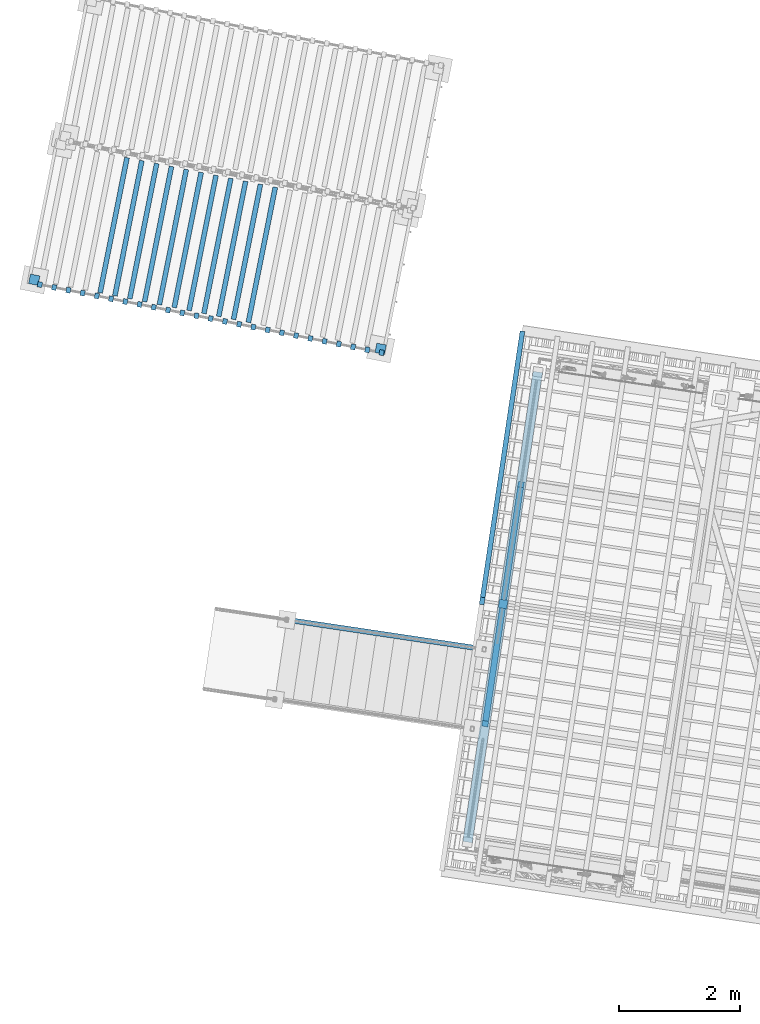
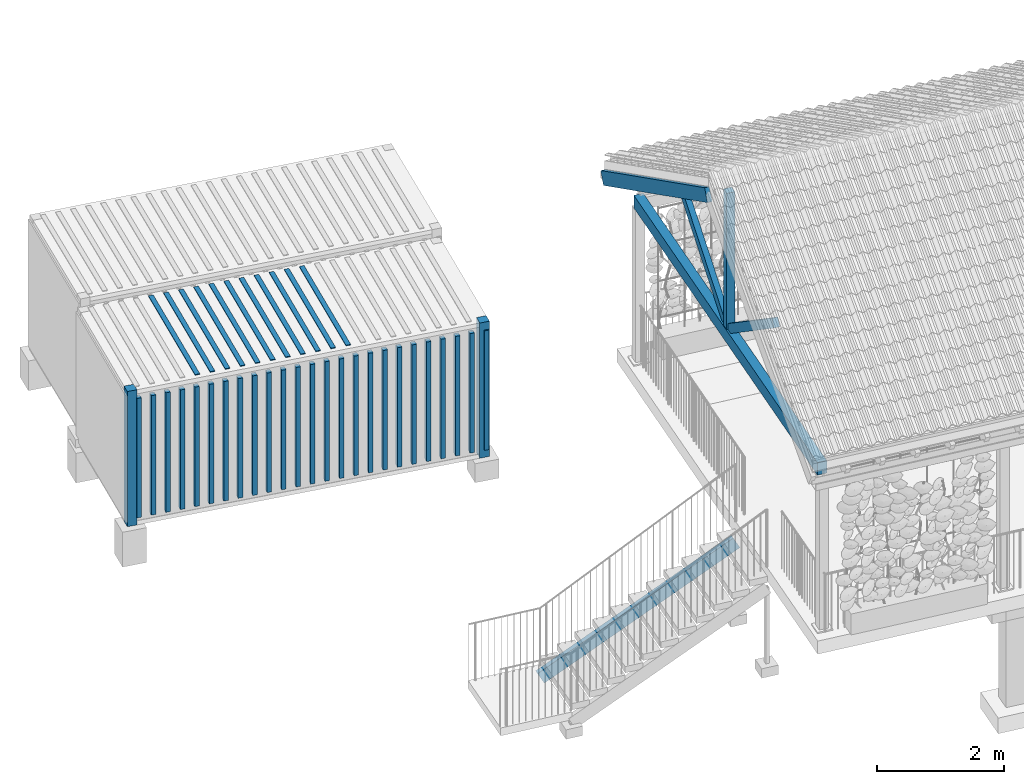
# One storey, part 23 of 131: 43 members, 1 beam, 3 elements without a shape of their own.
"""IFC4 building model written with IfcOpenShell, lengths in metres."""

from ifc_helpers import new_model, si_unit, direction, frame, origin_with_axes, place, context, subcontext, project, spatial, polyline, rectangle, outline, extrude, material, material_profile, profile_set, profile_usage, type_object, element, aggregate, save


model = new_model("IFC4")

# Units and contexts
model_context = context("Model", 3, precision=1e-05, world=origin_with_axes(), true_north=direction((0.0, 1.0)))
body_context = subcontext(model_context, "Body", "Model", "MODEL_VIEW")
ifc_project = project(units=[si_unit("AREAUNIT", "SQUARE_METRE"), si_unit("VOLUMEUNIT", "CUBIC_METRE"), si_unit("LENGTHUNIT", "METRE")], contexts=[model_context])

# Site, building, storey
site_placement = place(None, origin_with_axes())
site = spatial("IfcSite", under=ifc_project, at=site_placement, Name="Lares · Rua das Mercês · artigo 4771")
building_placement = place(site_placement, frame((15.0, 9.7, 14.65), z_axis=(0.0, 0.0, 1.0), x_axis=(0.989015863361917, -0.147809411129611, 0.0)))
building = spatial("IfcBuilding", under=site, at=building_placement, Name="Casa Sobreposta")
storey_placement = place(building_placement, origin_with_axes())
storey = spatial("IfcBuildingStorey", under=building, at=storey_placement, Name="00 · Habitação e estacionamento", Elevation=14.65)

# Roof, beam, members
ifc_material_1 = material(Name="Madeira / Bauholz", Category="wood")
roof_placement = place(storey_placement, origin_with_axes())
roof = element("IfcRoof", 1, at=roof_placement, inside=storey, material=ifc_material_1, Name="Cobertura de telha · duas águas 30 graus", PredefinedType="GABLE_ROOF")
ifc_material_profile_1 = material_profile(ifc_material_1, rectangle(XDim=0.16, YDim=0.24))
ifc_profile_set_1 = profile_set([ifc_material_profile_1], Name="TIMBER0.160x0.240")
ifc_profile_usage_1 = profile_usage(ifc_profile_set_1)
beam_type = type_object("IfcBeamType", Name="TIMBER0.160x0.240 / timber", PredefinedType="NOTDEFINED", material=ifc_profile_set_1)
beam_placement = place(roof_placement, frame((-6.05, -1.43, 3.02), z_axis=(0.0, 1.0, 0.0), x_axis=(1.0, 0.0, 0.0)))
beam = element("IfcBeam", 2, at=beam_placement, type_object=beam_type, material=ifc_profile_usage_1, Name="Tesoura · tirante inferior", context=body_context, shape_type="SweptSolid", body=[
    extrude(rectangle(XDim=0.16, YDim=0.24), origin_with_axes(), (0.0, 0.0, 1.0), 7.86),
])
ifc_material_profile_2 = material_profile(ifc_material_1, rectangle(XDim=0.14, YDim=0.14))
ifc_profile_set_2 = profile_set([ifc_material_profile_2], Name="TIMBER0.140x0.140")
ifc_profile_usage_2 = profile_usage(ifc_profile_set_2)
member_type_1 = type_object("IfcMemberType", Name="TIMBER0.140x0.140 / timber", PredefinedType="NOTDEFINED", material=ifc_profile_set_2)
member_1_placement = place(roof_placement, frame((-6.05, 2.55, 3.02), z_axis=(0.0, 0.0, 1.0), x_axis=(1.0, 0.0, 0.0)))
member_1 = element("IfcMember", 3, at=member_1_placement, type_object=member_type_1, material=ifc_profile_usage_2, Name="Tesoura · pendural", context=body_context, shape_type="SweptSolid", body=[
    extrude(rectangle(XDim=0.14, YDim=0.14), origin_with_axes(), (0.0, 0.0, 1.0), 2.72420869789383),
])
ifc_material_profile_3 = material_profile(ifc_material_1, rectangle(XDim=0.1, YDim=0.16))
ifc_profile_set_3 = profile_set([ifc_material_profile_3], Name="TIMBER0.100x0.160")
ifc_profile_usage_3 = profile_usage(ifc_profile_set_3)
member_type_2 = type_object("IfcMemberType", Name="TIMBER0.100x0.160 / timber", PredefinedType="NOTDEFINED", material=ifc_profile_set_3)
member_2_placement = place(roof_placement, frame((-6.05, 2.55, 3.1), z_axis=(0.0, -0.816439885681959, 0.577430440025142), x_axis=(-1.0, 0.0, 0.0)))
member_2 = element("IfcMember", 4, at=member_2_placement, type_object=member_type_2, material=ifc_profile_usage_3, Name="Tesoura · escora", context=body_context, shape_type="SweptSolid", body=[
    extrude(rectangle(XDim=0.1, YDim=0.16), origin_with_axes(), (0.0, 0.0, 1.0), 2.44965984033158),
])
ifc_profile_usage_4 = profile_usage(ifc_profile_set_3)
member_3_placement = place(roof_placement, frame((-6.05, 2.55, 3.1), z_axis=(0.0, 0.816439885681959, 0.577430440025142), x_axis=(1.0, 0.0, 0.0)))
member_3 = element("IfcMember", 5, at=member_3_placement, type_object=member_type_2, material=ifc_profile_usage_4, Name="Tesoura · escora", context=body_context, shape_type="SweptSolid", body=[
    extrude(rectangle(XDim=0.1, YDim=0.16), origin_with_axes(), (0.0, 0.0, 1.0), 2.44965984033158),
])
ifc_material_profile_4 = material_profile(ifc_material_1, rectangle(XDim=0.08, YDim=0.24))
ifc_profile_set_4 = profile_set([ifc_material_profile_4], Name="TIMBER0.080x0.240")
ifc_profile_usage_5 = profile_usage(ifc_profile_set_4)
member_type_3 = type_object("IfcMemberType", Name="TIMBER0.080x0.240 / timber", PredefinedType="NOTDEFINED", material=ifc_profile_set_4)
member_4_placement = place(roof_placement, frame((-6.4, 2.55, 5.75020869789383), z_axis=(0.0, 0.866025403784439, -0.5), x_axis=(1.0, 0.0, 0.0)))
member_4 = element("IfcMember", 6, at=member_4_placement, type_object=member_type_3, material=ifc_profile_usage_5, Name="Cobertura · caibro", context=body_context, shape_type="SweptSolid", body=[
    extrude(rectangle(XDim=0.08, YDim=0.24), origin_with_axes(), (0.0, 0.0, 1.0), 5.13841739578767),
])
aggregate(roof, [beam, member_1, member_2, member_3, member_4])

# Stair, member
stair_placement = place(storey_placement, origin_with_axes())
stair = element("IfcStair", 7, at=stair_placement, inside=storey, Name="Jardim · escada pela fachada poente", PredefinedType="STRAIGHT_RUN_STAIR")
ifc_material_2 = material(Name="Aço pintado / Stahl lackiert", Category="steel")
ifc_material_profile_5 = material_profile(ifc_material_2, outline(polyline([(-0.0425, -0.12), (0.0425, -0.12), (0.0425, -0.1102), (-0.0325, -0.1102), (-0.0325, 0.1102), (0.0425, 0.1102), (0.0425, 0.12), (-0.0425, 0.12), (-0.0425, -0.12)])))
ifc_profile_set_5 = profile_set([ifc_material_profile_5], Name="C240")
ifc_profile_usage_6 = profile_usage(ifc_profile_set_5)
member_type_4 = type_object("IfcMemberType", Name="C240 / steel", PredefinedType="NOTDEFINED", material=ifc_profile_set_5)
member_5_placement = place(stair_placement, frame((-6.25, 1.765, -0.419166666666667), z_axis=(-0.883369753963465, 0.0, -0.468676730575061), x_axis=(0.0, 1.0, 0.0)))
member_5 = element("IfcMember", 8, at=member_5_placement, type_object=member_type_4, material=ifc_profile_usage_6, Name="Jardim · longarina poente", context=body_context, shape_type="SweptSolid", body=[
    extrude(outline(polyline([(-0.0425, -0.12), (0.0425, -0.12), (0.0425, -0.1102), (-0.0325, -0.1102), (-0.0325, 0.1102), (0.0425, 0.1102), (0.0425, 0.12), (-0.0425, 0.12), (-0.0425, -0.12)])), origin_with_axes(), (0.0, 0.0, 1.0), 3.73569503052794),
])
aggregate(stair, [member_5])

# Assembly, members
assembly_placement = place(storey_placement, frame((-14.5932944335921, 6.63122214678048, 0.0), z_axis=(0.0, 0.0, 1.0), x_axis=(0.998832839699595, -0.0483007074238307, 0.0)))
assembly = element("IfcElementAssembly", 9, at=assembly_placement, inside=storey, Name="Contentor existente 2 · 6 m", ObjectType="EXISTING_SHIPPING_CONTAINER", PredefinedType="USERDEFINED")
ifc_material_3 = material(Name="Contentor · pintura 2", Category="steel")
member_6_placement = place(assembly_placement, frame((0.0, 0.0, -1.16875169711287), z_axis=(0.0, 0.0, 1.0), x_axis=(1.0, 0.0, 0.0)))
member_6 = element("IfcMember", 10, at=member_6_placement, material=ifc_material_3, Name="Contentor · canto", context=body_context, shape_type="SweptSolid", body=[
    extrude(outline(polyline([(0.16, 0.0), (0.16, 0.16), (0.0, 0.16), (0.0, 0.0), (0.16, 0.0)])), origin_with_axes(), (0.0, 0.0, 1.0), 2.59),
])
member_7_placement = place(assembly_placement, frame((0.0, 0.0, -1.16875169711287), z_axis=(0.0, 0.0, 1.0), x_axis=(1.0, 0.0, 0.0)))
member_7 = element("IfcMember", 11, at=member_7_placement, material=ifc_material_3, Name="Contentor · canto", context=body_context, shape_type="SweptSolid", body=[
    extrude(outline(polyline([(6.0, 0.0), (6.0, 0.16), (5.84, 0.16), (5.84, 0.0), (6.0, 0.0)])), origin_with_axes(), (0.0, 0.0, 1.0), 2.59),
])
member_8_placement = place(assembly_placement, frame((0.0, 0.0, -1.01875169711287), z_axis=(0.0, 0.0, 1.0), x_axis=(1.0, 0.0, 0.0)))
member_8 = element("IfcMember", 12, at=member_8_placement, material=ifc_material_3, Name="Contentor · nervura lateral", context=body_context, shape_type="SweptSolid", body=[
    extrude(outline(polyline([(0.225, -0.025), (0.225, 0.065), (0.15, 0.065), (0.15, -0.025), (0.225, -0.025)])), origin_with_axes(), (0.0, 0.0, 1.0), 2.29),
])
member_9_placement = place(assembly_placement, frame((0.0, 0.0, -1.01875169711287), z_axis=(0.0, 0.0, 1.0), x_axis=(1.0, 0.0, 0.0)))
member_9 = element("IfcMember", 13, at=member_9_placement, material=ifc_material_3, Name="Contentor · nervura lateral", context=body_context, shape_type="SweptSolid", body=[
    extrude(outline(polyline([(0.465, -0.025), (0.465, 0.065), (0.39, 0.065), (0.39, -0.025), (0.465, -0.025)])), origin_with_axes(), (0.0, 0.0, 1.0), 2.29),
])
member_10_placement = place(assembly_placement, frame((0.0, 0.0, -1.01875169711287), z_axis=(0.0, 0.0, 1.0), x_axis=(1.0, 0.0, 0.0)))
member_10 = element("IfcMember", 14, at=member_10_placement, material=ifc_material_3, Name="Contentor · nervura lateral", context=body_context, shape_type="SweptSolid", body=[
    extrude(outline(polyline([(0.705, -0.025), (0.705, 0.065), (0.63, 0.065), (0.63, -0.025), (0.705, -0.025)])), origin_with_axes(), (0.0, 0.0, 1.0), 2.29),
])
member_11_placement = place(assembly_placement, frame((0.0, 0.0, -1.01875169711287), z_axis=(0.0, 0.0, 1.0), x_axis=(1.0, 0.0, 0.0)))
member_11 = element("IfcMember", 15, at=member_11_placement, material=ifc_material_3, Name="Contentor · nervura lateral", context=body_context, shape_type="SweptSolid", body=[
    extrude(outline(polyline([(0.945, -0.025), (0.945, 0.065), (0.87, 0.065), (0.87, -0.025), (0.945, -0.025)])), origin_with_axes(), (0.0, 0.0, 1.0), 2.29),
])
member_12_placement = place(assembly_placement, frame((0.0, 0.0, -1.01875169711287), z_axis=(0.0, 0.0, 1.0), x_axis=(1.0, 0.0, 0.0)))
member_12 = element("IfcMember", 16, at=member_12_placement, material=ifc_material_3, Name="Contentor · nervura lateral", context=body_context, shape_type="SweptSolid", body=[
    extrude(outline(polyline([(1.185, -0.025), (1.185, 0.065), (1.11, 0.065), (1.11, -0.025), (1.185, -0.025)])), origin_with_axes(), (0.0, 0.0, 1.0), 2.29),
])
member_13_placement = place(assembly_placement, frame((0.0, 0.0, -1.01875169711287), z_axis=(0.0, 0.0, 1.0), x_axis=(1.0, 0.0, 0.0)))
member_13 = element("IfcMember", 17, at=member_13_placement, material=ifc_material_3, Name="Contentor · nervura lateral", context=body_context, shape_type="SweptSolid", body=[
    extrude(outline(polyline([(1.425, -0.025), (1.425, 0.065), (1.35, 0.065), (1.35, -0.025), (1.425, -0.025)])), origin_with_axes(), (0.0, 0.0, 1.0), 2.29),
])
member_14_placement = place(assembly_placement, frame((0.0, 0.0, -1.01875169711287), z_axis=(0.0, 0.0, 1.0), x_axis=(1.0, 0.0, 0.0)))
member_14 = element("IfcMember", 18, at=member_14_placement, material=ifc_material_3, Name="Contentor · nervura lateral", context=body_context, shape_type="SweptSolid", body=[
    extrude(outline(polyline([(1.665, -0.025), (1.665, 0.065), (1.59, 0.065), (1.59, -0.025), (1.665, -0.025)])), origin_with_axes(), (0.0, 0.0, 1.0), 2.29),
])
member_15_placement = place(assembly_placement, frame((0.0, 0.0, -1.01875169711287), z_axis=(0.0, 0.0, 1.0), x_axis=(1.0, 0.0, 0.0)))
member_15 = element("IfcMember", 19, at=member_15_placement, material=ifc_material_3, Name="Contentor · nervura lateral", context=body_context, shape_type="SweptSolid", body=[
    extrude(outline(polyline([(1.905, -0.025), (1.905, 0.065), (1.83, 0.065), (1.83, -0.025), (1.905, -0.025)])), origin_with_axes(), (0.0, 0.0, 1.0), 2.29),
])
member_16_placement = place(assembly_placement, frame((0.0, 0.0, -1.01875169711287), z_axis=(0.0, 0.0, 1.0), x_axis=(1.0, 0.0, 0.0)))
member_16 = element("IfcMember", 20, at=member_16_placement, material=ifc_material_3, Name="Contentor · nervura lateral", context=body_context, shape_type="SweptSolid", body=[
    extrude(outline(polyline([(2.145, -0.025), (2.145, 0.065), (2.07, 0.065), (2.07, -0.025), (2.145, -0.025)])), origin_with_axes(), (0.0, 0.0, 1.0), 2.29),
])
member_17_placement = place(assembly_placement, frame((0.0, 0.0, -1.01875169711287), z_axis=(0.0, 0.0, 1.0), x_axis=(1.0, 0.0, 0.0)))
member_17 = element("IfcMember", 21, at=member_17_placement, material=ifc_material_3, Name="Contentor · nervura lateral", context=body_context, shape_type="SweptSolid", body=[
    extrude(outline(polyline([(2.385, -0.025), (2.385, 0.065), (2.31, 0.065), (2.31, -0.025), (2.385, -0.025)])), origin_with_axes(), (0.0, 0.0, 1.0), 2.29),
])
member_18_placement = place(assembly_placement, frame((0.0, 0.0, -1.01875169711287), z_axis=(0.0, 0.0, 1.0), x_axis=(1.0, 0.0, 0.0)))
member_18 = element("IfcMember", 22, at=member_18_placement, material=ifc_material_3, Name="Contentor · nervura lateral", context=body_context, shape_type="SweptSolid", body=[
    extrude(outline(polyline([(2.625, -0.025), (2.625, 0.065), (2.55, 0.065), (2.55, -0.025), (2.625, -0.025)])), origin_with_axes(), (0.0, 0.0, 1.0), 2.29),
])
member_19_placement = place(assembly_placement, frame((0.0, 0.0, -1.01875169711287), z_axis=(0.0, 0.0, 1.0), x_axis=(1.0, 0.0, 0.0)))
member_19 = element("IfcMember", 23, at=member_19_placement, material=ifc_material_3, Name="Contentor · nervura lateral", context=body_context, shape_type="SweptSolid", body=[
    extrude(outline(polyline([(2.865, -0.025), (2.865, 0.065), (2.79, 0.065), (2.79, -0.025), (2.865, -0.025)])), origin_with_axes(), (0.0, 0.0, 1.0), 2.29),
])
member_20_placement = place(assembly_placement, frame((0.0, 0.0, -1.01875169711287), z_axis=(0.0, 0.0, 1.0), x_axis=(1.0, 0.0, 0.0)))
member_20 = element("IfcMember", 24, at=member_20_placement, material=ifc_material_3, Name="Contentor · nervura lateral", context=body_context, shape_type="SweptSolid", body=[
    extrude(outline(polyline([(3.105, -0.025), (3.105, 0.065), (3.03, 0.065), (3.03, -0.025), (3.105, -0.025)])), origin_with_axes(), (0.0, 0.0, 1.0), 2.29),
])
member_21_placement = place(assembly_placement, frame((0.0, 0.0, -1.01875169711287), z_axis=(0.0, 0.0, 1.0), x_axis=(1.0, 0.0, 0.0)))
member_21 = element("IfcMember", 25, at=member_21_placement, material=ifc_material_3, Name="Contentor · nervura lateral", context=body_context, shape_type="SweptSolid", body=[
    extrude(outline(polyline([(3.345, -0.025), (3.345, 0.065), (3.27, 0.065), (3.27, -0.025), (3.345, -0.025)])), origin_with_axes(), (0.0, 0.0, 1.0), 2.29),
])
member_22_placement = place(assembly_placement, frame((0.0, 0.0, -1.01875169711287), z_axis=(0.0, 0.0, 1.0), x_axis=(1.0, 0.0, 0.0)))
member_22 = element("IfcMember", 26, at=member_22_placement, material=ifc_material_3, Name="Contentor · nervura lateral", context=body_context, shape_type="SweptSolid", body=[
    extrude(outline(polyline([(3.585, -0.025), (3.585, 0.065), (3.51, 0.065), (3.51, -0.025), (3.585, -0.025)])), origin_with_axes(), (0.0, 0.0, 1.0), 2.29),
])
member_23_placement = place(assembly_placement, frame((0.0, 0.0, -1.01875169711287), z_axis=(0.0, 0.0, 1.0), x_axis=(1.0, 0.0, 0.0)))
member_23 = element("IfcMember", 27, at=member_23_placement, material=ifc_material_3, Name="Contentor · nervura lateral", context=body_context, shape_type="SweptSolid", body=[
    extrude(outline(polyline([(3.825, -0.025), (3.825, 0.065), (3.75, 0.065), (3.75, -0.025), (3.825, -0.025)])), origin_with_axes(), (0.0, 0.0, 1.0), 2.29),
])
member_24_placement = place(assembly_placement, frame((0.0, 0.0, -1.01875169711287), z_axis=(0.0, 0.0, 1.0), x_axis=(1.0, 0.0, 0.0)))
member_24 = element("IfcMember", 28, at=member_24_placement, material=ifc_material_3, Name="Contentor · nervura lateral", context=body_context, shape_type="SweptSolid", body=[
    extrude(outline(polyline([(4.065, -0.025), (4.065, 0.065), (3.99, 0.065), (3.99, -0.025), (4.065, -0.025)])), origin_with_axes(), (0.0, 0.0, 1.0), 2.29),
])
member_25_placement = place(assembly_placement, frame((0.0, 0.0, -1.01875169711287), z_axis=(0.0, 0.0, 1.0), x_axis=(1.0, 0.0, 0.0)))
member_25 = element("IfcMember", 29, at=member_25_placement, material=ifc_material_3, Name="Contentor · nervura lateral", context=body_context, shape_type="SweptSolid", body=[
    extrude(outline(polyline([(4.305, -0.025), (4.305, 0.065), (4.23, 0.065), (4.23, -0.025), (4.305, -0.025)])), origin_with_axes(), (0.0, 0.0, 1.0), 2.29),
])
member_26_placement = place(assembly_placement, frame((0.0, 0.0, -1.01875169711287), z_axis=(0.0, 0.0, 1.0), x_axis=(1.0, 0.0, 0.0)))
member_26 = element("IfcMember", 30, at=member_26_placement, material=ifc_material_3, Name="Contentor · nervura lateral", context=body_context, shape_type="SweptSolid", body=[
    extrude(outline(polyline([(4.545, -0.025), (4.545, 0.065), (4.47, 0.065), (4.47, -0.025), (4.545, -0.025)])), origin_with_axes(), (0.0, 0.0, 1.0), 2.29),
])
member_27_placement = place(assembly_placement, frame((0.0, 0.0, -1.01875169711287), z_axis=(0.0, 0.0, 1.0), x_axis=(1.0, 0.0, 0.0)))
member_27 = element("IfcMember", 31, at=member_27_placement, material=ifc_material_3, Name="Contentor · nervura lateral", context=body_context, shape_type="SweptSolid", body=[
    extrude(outline(polyline([(4.785, -0.025), (4.785, 0.065), (4.71, 0.065), (4.71, -0.025), (4.785, -0.025)])), origin_with_axes(), (0.0, 0.0, 1.0), 2.29),
])
member_28_placement = place(assembly_placement, frame((0.0, 0.0, -1.01875169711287), z_axis=(0.0, 0.0, 1.0), x_axis=(1.0, 0.0, 0.0)))
member_28 = element("IfcMember", 32, at=member_28_placement, material=ifc_material_3, Name="Contentor · nervura lateral", context=body_context, shape_type="SweptSolid", body=[
    extrude(outline(polyline([(5.025, -0.025), (5.025, 0.065), (4.95, 0.065), (4.95, -0.025), (5.025, -0.025)])), origin_with_axes(), (0.0, 0.0, 1.0), 2.29),
])
member_29_placement = place(assembly_placement, frame((0.0, 0.0, -1.01875169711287), z_axis=(0.0, 0.0, 1.0), x_axis=(1.0, 0.0, 0.0)))
member_29 = element("IfcMember", 33, at=member_29_placement, material=ifc_material_3, Name="Contentor · nervura lateral", context=body_context, shape_type="SweptSolid", body=[
    extrude(outline(polyline([(5.265, -0.025), (5.265, 0.065), (5.19, 0.065), (5.19, -0.025), (5.265, -0.025)])), origin_with_axes(), (0.0, 0.0, 1.0), 2.29),
])
member_30_placement = place(assembly_placement, frame((0.0, 0.0, -1.01875169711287), z_axis=(0.0, 0.0, 1.0), x_axis=(1.0, 0.0, 0.0)))
member_30 = element("IfcMember", 34, at=member_30_placement, material=ifc_material_3, Name="Contentor · nervura lateral", context=body_context, shape_type="SweptSolid", body=[
    extrude(outline(polyline([(5.505, -0.025), (5.505, 0.065), (5.43, 0.065), (5.43, -0.025), (5.505, -0.025)])), origin_with_axes(), (0.0, 0.0, 1.0), 2.29),
])
member_31_placement = place(assembly_placement, frame((0.0, 0.0, -1.01875169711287), z_axis=(0.0, 0.0, 1.0), x_axis=(1.0, 0.0, 0.0)))
member_31 = element("IfcMember", 35, at=member_31_placement, material=ifc_material_3, Name="Contentor · nervura lateral", context=body_context, shape_type="SweptSolid", body=[
    extrude(outline(polyline([(5.745, -0.025), (5.745, 0.065), (5.67, 0.065), (5.67, -0.025), (5.745, -0.025)])), origin_with_axes(), (0.0, 0.0, 1.0), 2.29),
])
member_32_placement = place(assembly_placement, frame((0.0, 0.0, -1.01875169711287), z_axis=(0.0, 0.0, 1.0), x_axis=(1.0, 0.0, 0.0)))
member_32 = element("IfcMember", 36, at=member_32_placement, material=ifc_material_3, Name="Contentor · nervura lateral", context=body_context, shape_type="SweptSolid", body=[
    extrude(outline(polyline([(5.985, -0.025), (5.985, 0.065), (5.91, 0.065), (5.91, -0.025), (5.985, -0.025)])), origin_with_axes(), (0.0, 0.0, 1.0), 2.29),
])
member_33_placement = place(assembly_placement, frame((0.0, 0.0, 1.41624830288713), z_axis=(0.0, 0.0, 1.0), x_axis=(1.0, 0.0, 0.0)))
member_33 = element("IfcMember", 37, at=member_33_placement, material=ifc_material_3, Name="Contentor · nervura cobertura", context=body_context, shape_type="SweptSolid", body=[
    extrude(outline(polyline([(1.23, 0.08), (1.23, 2.36), (1.15, 2.36), (1.15, 0.08), (1.23, 0.08)])), origin_with_axes(), (0.0, 0.0, 1.0), 0.018),
])
member_34_placement = place(assembly_placement, frame((0.0, 0.0, 1.41624830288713), z_axis=(0.0, 0.0, 1.0), x_axis=(1.0, 0.0, 0.0)))
member_34 = element("IfcMember", 38, at=member_34_placement, material=ifc_material_3, Name="Contentor · nervura cobertura", context=body_context, shape_type="SweptSolid", body=[
    extrude(outline(polyline([(1.48, 0.08), (1.48, 2.36), (1.4, 2.36), (1.4, 0.08), (1.48, 0.08)])), origin_with_axes(), (0.0, 0.0, 1.0), 0.018),
])
member_35_placement = place(assembly_placement, frame((0.0, 0.0, 1.41624830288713), z_axis=(0.0, 0.0, 1.0), x_axis=(1.0, 0.0, 0.0)))
member_35 = element("IfcMember", 39, at=member_35_placement, material=ifc_material_3, Name="Contentor · nervura cobertura", context=body_context, shape_type="SweptSolid", body=[
    extrude(outline(polyline([(1.73, 0.08), (1.73, 2.36), (1.65, 2.36), (1.65, 0.08), (1.73, 0.08)])), origin_with_axes(), (0.0, 0.0, 1.0), 0.018),
])
member_36_placement = place(assembly_placement, frame((0.0, 0.0, 1.41624830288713), z_axis=(0.0, 0.0, 1.0), x_axis=(1.0, 0.0, 0.0)))
member_36 = element("IfcMember", 40, at=member_36_placement, material=ifc_material_3, Name="Contentor · nervura cobertura", context=body_context, shape_type="SweptSolid", body=[
    extrude(outline(polyline([(1.98, 0.08), (1.98, 2.36), (1.9, 2.36), (1.9, 0.08), (1.98, 0.08)])), origin_with_axes(), (0.0, 0.0, 1.0), 0.018),
])
member_37_placement = place(assembly_placement, frame((0.0, 0.0, 1.41624830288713), z_axis=(0.0, 0.0, 1.0), x_axis=(1.0, 0.0, 0.0)))
member_37 = element("IfcMember", 41, at=member_37_placement, material=ifc_material_3, Name="Contentor · nervura cobertura", context=body_context, shape_type="SweptSolid", body=[
    extrude(outline(polyline([(2.23, 0.08), (2.23, 2.36), (2.15, 2.36), (2.15, 0.08), (2.23, 0.08)])), origin_with_axes(), (0.0, 0.0, 1.0), 0.018),
])
member_38_placement = place(assembly_placement, frame((0.0, 0.0, 1.41624830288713), z_axis=(0.0, 0.0, 1.0), x_axis=(1.0, 0.0, 0.0)))
member_38 = element("IfcMember", 42, at=member_38_placement, material=ifc_material_3, Name="Contentor · nervura cobertura", context=body_context, shape_type="SweptSolid", body=[
    extrude(outline(polyline([(2.48, 0.08), (2.48, 2.36), (2.4, 2.36), (2.4, 0.08), (2.48, 0.08)])), origin_with_axes(), (0.0, 0.0, 1.0), 0.018),
])
member_39_placement = place(assembly_placement, frame((0.0, 0.0, 1.41624830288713), z_axis=(0.0, 0.0, 1.0), x_axis=(1.0, 0.0, 0.0)))
member_39 = element("IfcMember", 43, at=member_39_placement, material=ifc_material_3, Name="Contentor · nervura cobertura", context=body_context, shape_type="SweptSolid", body=[
    extrude(outline(polyline([(2.73, 0.08), (2.73, 2.36), (2.65, 2.36), (2.65, 0.08), (2.73, 0.08)])), origin_with_axes(), (0.0, 0.0, 1.0), 0.018),
])
member_40_placement = place(assembly_placement, frame((0.0, 0.0, 1.41624830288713), z_axis=(0.0, 0.0, 1.0), x_axis=(1.0, 0.0, 0.0)))
member_40 = element("IfcMember", 44, at=member_40_placement, material=ifc_material_3, Name="Contentor · nervura cobertura", context=body_context, shape_type="SweptSolid", body=[
    extrude(outline(polyline([(2.98, 0.08), (2.98, 2.36), (2.9, 2.36), (2.9, 0.08), (2.98, 0.08)])), origin_with_axes(), (0.0, 0.0, 1.0), 0.018),
])
member_41_placement = place(assembly_placement, frame((0.0, 0.0, 1.41624830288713), z_axis=(0.0, 0.0, 1.0), x_axis=(1.0, 0.0, 0.0)))
member_41 = element("IfcMember", 45, at=member_41_placement, material=ifc_material_3, Name="Contentor · nervura cobertura", context=body_context, shape_type="SweptSolid", body=[
    extrude(outline(polyline([(3.23, 0.08), (3.23, 2.36), (3.15, 2.36), (3.15, 0.08), (3.23, 0.08)])), origin_with_axes(), (0.0, 0.0, 1.0), 0.018),
])
member_42_placement = place(assembly_placement, frame((0.0, 0.0, 1.41624830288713), z_axis=(0.0, 0.0, 1.0), x_axis=(1.0, 0.0, 0.0)))
member_42 = element("IfcMember", 46, at=member_42_placement, material=ifc_material_3, Name="Contentor · nervura cobertura", context=body_context, shape_type="SweptSolid", body=[
    extrude(outline(polyline([(3.48, 0.08), (3.48, 2.36), (3.4, 2.36), (3.4, 0.08), (3.48, 0.08)])), origin_with_axes(), (0.0, 0.0, 1.0), 0.018),
])
member_43_placement = place(assembly_placement, frame((0.0, 0.0, 1.41624830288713), z_axis=(0.0, 0.0, 1.0), x_axis=(1.0, 0.0, 0.0)))
member_43 = element("IfcMember", 47, at=member_43_placement, material=ifc_material_3, Name="Contentor · nervura cobertura", context=body_context, shape_type="SweptSolid", body=[
    extrude(outline(polyline([(3.73, 0.08), (3.73, 2.36), (3.65, 2.36), (3.65, 0.08), (3.73, 0.08)])), origin_with_axes(), (0.0, 0.0, 1.0), 0.018),
])
aggregate(assembly, [member_6, member_7, member_8, member_9, member_10, member_11, member_12, member_13, member_14, member_15, member_16, member_17, member_18, member_19, member_20, member_21, member_22, member_23, member_24, member_25, member_26, member_27, member_28, member_29, member_30, member_31, member_32, member_33, member_34, member_35, member_36, member_37, member_38, member_39, member_40, member_41, member_42, member_43])

save(model, "model.ifc")
